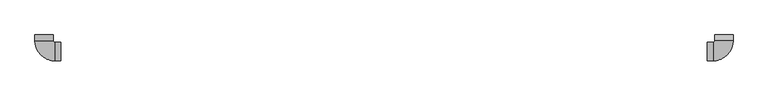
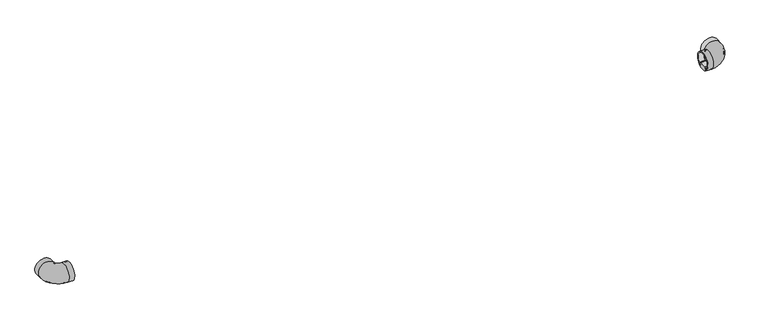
"""IFC4 building model written with IfcOpenShell, lengths in millimetres: light fixture geometry, ARTEMIDE-AoL-StandAlone-SquareRectangular_Suspended : StandALone_Suspended_SquareRectangular-1911x1911mm 14020lm 3000K."""

from ifc_helpers import new_model, si_unit, point, frame, origin, place, context, project, spatial, polyline, circle_curve, ellipse_curve, trimmed, source, transform, mapped, element, save
from ifc_brep_helpers import plane_surface, cylinder_surface, revolved_surface, advanced_brep


def light_fixture_b85b4a0d(model_context):
    return source(origin(), model_context, "Body", "AdvancedBrep", [
        advanced_brep(
        [(1840.5032014, -126.75, 502.9333396), (1840.5032014, -126.75, 507.259212), (1840.5032014, -130.304087, 507.259212), (1840.5032014, -130.304087, 508.785971), (1840.5032014, -124.5062575, 508.785971), (1840.5032014, -124.5062575, 514.4273482), (1840.5032014, -105.4937425, 514.4273482), (1840.5032014, -105.4937425, 508.785971), (1840.5032014, -99.695913, 508.785971), (1840.5032014, -99.695913, 507.259212), (1840.5032014, -103.25, 507.259212), (1840.5032014, -103.25, 502.9333396), (1897.7532014, -69.5, 502.9333396), (1874.2532014, -69.5, 502.9333396), (1874.2532014, -69.5, 507.259212), (1870.6991144, -69.5, 507.259212), (1870.6991144, -69.5, 508.785971), (1876.4969439, -69.5, 508.785971), (1876.4969439, -69.5, 514.4273482), (1895.5094589, -69.5, 514.4273482), (1895.5094589, -69.5, 508.785971), (1901.3072884, -69.5, 508.785971), (1901.3072884, -69.5, 507.259212), (1897.7532014, -69.5, 507.259212), (1856.0032014, -103.25, 502.9333396), (1856.0032014, -126.75, 502.9333396), (1856.0032014, -103.25, 507.259212), (1856.0032014, -99.695913, 507.259212), (1870.6991144, -85.0, 507.259212), (1874.2532014, -85.0, 507.259212), (1856.0032014, -99.695913, 508.785971), (1856.0032014, -105.4937425, 508.785971), (1876.4969439, -85.0, 508.785971), (1870.6991144, -85.0, 508.785971), (1856.0032014, -105.4937425, 514.4273482), (1856.0032014, -124.5062575, 514.4273482), (1895.5094589, -85.0, 514.4273482), (1876.4969439, -85.0, 514.4273482), (1856.0032014, -124.5062575, 508.785971), (1856.0032014, -130.304087, 508.785971), (1901.3072884, -85.0, 508.785971), (1895.5094589, -85.0, 508.785971), (1856.0032014, -130.304087, 507.259212), (1856.0032014, -126.75, 507.259212), (1897.7532014, -85.0, 507.259212), (1901.3072884, -85.0, 507.259212), (1897.7532014, -85.0, 502.9333396), (1874.2532014, -85.0, 502.9333396)],
        [
            (0, 1),
            (1, 2),
            (2, 3),
            (3, 4),
            (4, 5),
            (5, 6),
            (6, 7),
            (7, 8),
            (8, 9),
            (9, 10),
            (10, 11),
            (11, 0, circle_curve(frame((1840.5032014, -115.0, 525.0), z_axis=(-1.0, 0.0, 0.0), x_axis=(0.0, 1.0, 0.0)), 25.0)),
            (12, 13, circle_curve(frame((1886.0032014, -69.5, 525.0), z_axis=(0.0, 1.0, 0.0), x_axis=(-1.0, 0.0, 0.0)), 25.0)),
            (13, 14),
            (14, 15),
            (15, 16),
            (16, 17),
            (17, 18),
            (18, 19),
            (19, 20),
            (20, 21),
            (21, 22),
            (22, 23),
            (23, 12),
            (11, 24),
            (24, 25, circle_curve(frame((1856.0032014, -115.0, 525.0), z_axis=(-1.0, 0.0, 0.0), x_axis=(0.0, 1.0, 0.0)), 25.0)),
            (25, 0),
            (10, 26),
            (26, 24),
            (9, 27),
            (27, 28, circle_curve(frame((1856.0032014, -85.0, 507.259212), z_axis=(0.0, 0.0, 1.0), x_axis=(0.0, -1.0, 0.0)), 14.695913)),
            (28, 15),
            (14, 29),
            (29, 26, circle_curve(frame((1856.0032014, -85.0, 507.259212), z_axis=(0.0, 0.0, -1.0), x_axis=(0.0, -1.0, 0.0)), 18.25)),
            (8, 30),
            (30, 27),
            (7, 31),
            (31, 32, circle_curve(frame((1856.0032014, -85.0, 508.785971), z_axis=(0.0, 0.0, 1.0), x_axis=(0.0, -1.0, 0.0)), 20.4937425)),
            (32, 17),
            (16, 33),
            (33, 30, circle_curve(frame((1856.0032014, -85.0, 508.785971), z_axis=(0.0, 0.0, -1.0), x_axis=(0.0, -1.0, 0.0)), 14.695913)),
            (6, 34),
            (34, 31),
            (5, 35),
            (35, 36, circle_curve(frame((1856.0032014, -85.0, 514.4273482), z_axis=(0.0, 0.0, 1.0), x_axis=(0.0, -1.0, 0.0)), 39.5062575)),
            (36, 19),
            (18, 37),
            (37, 34, circle_curve(frame((1856.0032014, -85.0, 514.4273482), z_axis=(0.0, 0.0, -1.0), x_axis=(0.0, -1.0, 0.0)), 20.4937425)),
            (4, 38),
            (38, 35),
            (3, 39),
            (39, 40, circle_curve(frame((1856.0032014, -85.0, 508.785971), z_axis=(0.0, 0.0, 1.0), x_axis=(0.0, -1.0, 0.0)), 45.304087)),
            (40, 21),
            (20, 41),
            (41, 38, circle_curve(frame((1856.0032014, -85.0, 508.785971), z_axis=(0.0, 0.0, -1.0), x_axis=(0.0, -1.0, 0.0)), 39.5062575)),
            (2, 42),
            (42, 39),
            (1, 43),
            (43, 44, circle_curve(frame((1856.0032014, -85.0, 507.259212), z_axis=(0.0, 0.0, 1.0), x_axis=(0.0, -1.0, 0.0)), 41.75)),
            (44, 23),
            (22, 45),
            (45, 42, circle_curve(frame((1856.0032014, -85.0, 507.259212), z_axis=(0.0, 0.0, -1.0), x_axis=(0.0, -1.0, 0.0)), 45.304087)),
            (25, 43),
            (46, 25, circle_curve(frame((1856.0032014, -85.0, 502.9333396), z_axis=(0.0, 0.0, -1.0), x_axis=(0.0, -1.0, 0.0)), 41.75)),
            (24, 47, circle_curve(frame((1856.0032014, -85.0, 502.9333396), z_axis=(0.0, 0.0, 1.0), x_axis=(0.0, -1.0, 0.0)), 18.25)),
            (47, 46, circle_curve(frame((1886.0032014, -85.0, 525.0), z_axis=(0.0, -1.0, 0.0), x_axis=(-1.0, 0.0, 0.0)), 25.0)),
            (29, 47),
            (33, 28),
            (37, 32),
            (41, 36),
            (45, 40),
            (46, 44),
            (47, 13),
            (12, 46),
        ],
        [
            plane_surface(frame((1840.5032014, -115.0, 500.0), z_axis=(-1.0, 0.0, 0.0), x_axis=(0.0, 0.0, 1.0))),
            plane_surface(frame((1886.0032014, -69.5, 500.0), z_axis=(0.0, 1.0, 0.0), x_axis=(0.0, 0.0, 1.0))),
            cylinder_surface(frame((1840.5032014, -115.0, 525.0), z_axis=(-1.0, 0.0, 0.0), x_axis=(0.0, 1.0, 0.0)), 25.0),
            plane_surface(frame((1840.5032014, -103.25, 507.259212), z_axis=(0.0, 1.0, 0.0), x_axis=(1.0, 0.0, 0.0))),
            plane_surface(frame((1840.5032014, -99.695913, 507.259212), z_axis=(0.0, 0.0, -1.0), x_axis=(1.0, 0.0, 0.0))),
            plane_surface(frame((1840.5032014, -99.695913, 508.785971), z_axis=(0.0, 1.0, 0.0), x_axis=(1.0, 0.0, 0.0))),
            plane_surface(frame((1840.5032014, -105.4937425, 508.785971), z_axis=(0.0, 0.0, 1.0), x_axis=(1.0, 0.0, 0.0))),
            plane_surface(frame((1840.5032014, -105.4937425, 514.4273482), z_axis=(0.0, 1.0, 0.0), x_axis=(1.0, 0.0, 0.0))),
            plane_surface(frame((1840.5032014, -124.5062575, 514.4273482), z_axis=(0.0, 0.0, 1.0), x_axis=(1.0, 0.0, 0.0))),
            plane_surface(frame((1840.5032014, -124.5062575, 508.785971), z_axis=(0.0, -1.0, 0.0), x_axis=(1.0, 0.0, 0.0))),
            plane_surface(frame((1840.5032014, -130.304087, 508.785971), z_axis=(0.0, 0.0, 1.0), x_axis=(1.0, 0.0, 0.0))),
            plane_surface(frame((1840.5032014, -130.304087, 507.259212), z_axis=(0.0, -1.0, 0.0), x_axis=(1.0, 0.0, 0.0))),
            plane_surface(frame((1840.5032014, -126.75, 507.259212), z_axis=(0.0, 0.0, -1.0), x_axis=(1.0, 0.0, 0.0))),
            plane_surface(frame((1840.5032014, -126.75, 502.9333396), z_axis=(0.0, -1.0, 0.0), x_axis=(1.0, 0.0, 0.0))),
            revolved_surface(trimmed(ellipse_curve(frame((1856.0032014, -115.0, 525.0), z_axis=(-1.0, 0.0, 0.0), x_axis=(0.0, 1.0, 0.0)), 25.0, 25.0), [point((1856.0032014, -103.25, 502.9333396))], [point((1856.0032014, -126.75, 502.9333396))], True, "CARTESIAN"), (1856.0032014, -85.0, 500.0), (0.0, 0.0, 1.0)),
            revolved_surface(polyline([(1856.0032014, -103.25, 507.259212), (1856.0032014, -103.25, 502.9333396)]), (1856.0032014, -85.0, 500.0), (0.0, 0.0, 1.0)),
            revolved_surface(polyline([(1856.0032014, -99.695913, 508.785971), (1856.0032014, -99.695913, 507.259212)]), (1856.0032014, -85.0, 500.0), (0.0, 0.0, 1.0)),
            revolved_surface(polyline([(1856.0032014, -105.4937425, 514.4273482), (1856.0032014, -105.4937425, 508.785971)]), (1856.0032014, -85.0, 500.0), (0.0, 0.0, 1.0)),
            cylinder_surface(frame((1856.0032014, -85.0, 500.0), z_axis=(0.0, 0.0, 1.0), x_axis=(0.0, -1.0, 0.0)), 39.5062575),
            cylinder_surface(frame((1856.0032014, -85.0, 500.0), z_axis=(0.0, 0.0, 1.0), x_axis=(0.0, -1.0, 0.0)), 45.304087),
            cylinder_surface(frame((1856.0032014, -85.0, 500.0), z_axis=(0.0, 0.0, 1.0), x_axis=(0.0, -1.0, 0.0)), 41.75),
            cylinder_surface(frame((1886.0032014, -85.0, 525.0), z_axis=(0.0, -1.0, 0.0), x_axis=(-1.0, 0.0, 0.0)), 25.0),
            plane_surface(frame((1874.2532014, -85.0, 507.259212), z_axis=(-1.0, 0.0, 0.0), x_axis=(0.0, 1.0, 0.0))),
            plane_surface(frame((1870.6991144, -85.0, 508.785971), z_axis=(-1.0, 0.0, 0.0), x_axis=(0.0, 1.0, 0.0))),
            plane_surface(frame((1876.4969439, -85.0, 514.4273482), z_axis=(-1.0, 0.0, 0.0), x_axis=(0.0, 1.0, 0.0))),
            plane_surface(frame((1895.5094589, -85.0, 508.785971), z_axis=(1.0, 0.0, 0.0), x_axis=(0.0, 1.0, 0.0))),
            plane_surface(frame((1901.3072884, -85.0, 507.259212), z_axis=(1.0, 0.0, 0.0), x_axis=(0.0, 1.0, 0.0))),
            plane_surface(frame((1897.7532014, -85.0, 502.9333396), z_axis=(1.0, 0.0, 0.0), x_axis=(0.0, 1.0, 0.0))),
        ],
        [
            (0, [[1, 2, 3, 4, 5, 6, 7, 8, 9, 10, 11, 12]]),
            (1, [[13, 14, 15, 16, 17, 18, 19, 20, 21, 22, 23, 24]]),
            (2, [[-12, 25, 26, 27]]),
            (3, [[-11, 28, 29, -25]]),
            (4, [[-10, 30, 31, 32, -15, 33, 34, -28]]),
            (5, [[-9, 35, 36, -30]]),
            (6, [[-8, 37, 38, 39, -17, 40, 41, -35]]),
            (7, [[-7, 42, 43, -37]]),
            (8, [[-6, 44, 45, 46, -19, 47, 48, -42]]),
            (9, [[-5, 49, 50, -44]]),
            (10, [[-4, 51, 52, 53, -21, 54, 55, -49]]),
            (11, [[-3, 56, 57, -51]]),
            (12, [[-2, 58, 59, 60, -23, 61, 62, -56]]),
            (13, [[-1, -27, 63, -58]]),
            (14, [[64, -26, 65, 66]]),
            (15, [[-65, -29, -34, 67]]),
            (16, [[-31, -36, -41, 68]]),
            (17, [[-38, -43, -48, 69]]),
            (18, [[-45, -50, -55, 70]]),
            (19, [[-52, -57, -62, 71]]),
            (20, [[-59, -63, -64, 72]]),
            (21, [[-66, 73, -13, 74]]),
            (22, [[-67, -33, -14, -73]]),
            (23, [[-68, -40, -16, -32]]),
            (24, [[-69, -47, -18, -39]]),
            (25, [[-70, -54, -20, -46]]),
            (26, [[-71, -61, -22, -53]]),
            (27, [[-72, -74, -24, -60]]),
        ],
    ),
        advanced_brep(
        [(1840.5032014, -103.25, 502.9333396), (1840.5032014, -103.25, 507.259212), (1840.5032014, -101.332246, 507.259212), (1840.5032014, -101.332246, 505.8288843), (1840.5032014, -99.382246, 507.2440748), (1840.5032014, -99.382246, 509.244074), (1840.5032014, -102.332246, 509.244074), (1840.5032014, -102.332246, 510.744074), (1840.5032014, -97.7220206, 510.744074), (1840.5032014, -132.2779794, 510.744074), (1840.5032014, -127.667754, 510.744074), (1840.5032014, -127.667754, 509.244074), (1840.5032014, -130.617754, 509.244074), (1840.5032014, -130.617754, 507.2440748), (1840.5032014, -128.667754, 505.8288843), (1840.5032014, -128.667754, 507.259212), (1840.5032014, -126.75, 507.259212), (1840.5032014, -126.75, 502.9333396), (1874.2532014, -69.5, 502.9333396), (1897.7532014, -69.5, 502.9333396), (1897.7532014, -69.5, 507.259212), (1899.6709554, -69.5, 507.259212), (1899.6709554, -69.5, 505.8288843), (1901.6209554, -69.5, 507.2440748), (1901.6209554, -69.5, 509.244074), (1898.6709554, -69.5, 509.244074), (1898.6709554, -69.5, 510.744074), (1903.2811808, -69.5, 510.744074), (1868.725222, -69.5, 510.744074), (1873.3354474, -69.5, 510.744074), (1873.3354474, -69.5, 509.244074), (1870.3854474, -69.5, 509.244074), (1870.3854474, -69.5, 507.2440748), (1872.3354474, -69.5, 505.8288843), (1872.3354474, -69.5, 507.259212), (1874.2532014, -69.5, 507.259212), (1856.0032014, -126.75, 502.9333396), (1856.0032014, -103.25, 502.9333396), (1856.0032014, -126.75, 507.259212), (1856.0032014, -128.667754, 507.259212), (1899.6709554, -85.0, 507.259212), (1897.7532014, -85.0, 507.259212), (1856.0032014, -128.667754, 505.8288843), (1856.0032014, -130.617754, 507.2440748), (1856.0032014, -130.617754, 509.244074), (1856.0032014, -127.667754, 509.244074), (1898.6709554, -85.0, 509.244074), (1901.6209554, -85.0, 509.244074), (1856.0032014, -127.667754, 510.744074), (1856.0032014, -132.2779794, 510.744074), (1903.2811808, -85.0, 510.744074), (1898.6709554, -85.0, 510.744074), (1856.0032014, -97.7220206, 510.744074), (1856.0032014, -102.332246, 510.744074), (1873.3354474, -85.0, 510.744074), (1868.725222, -85.0, 510.744074), (1856.0032014, -102.332246, 509.244074), (1856.0032014, -99.382246, 509.244074), (1870.3854474, -85.0, 509.244074), (1873.3354474, -85.0, 509.244074), (1856.0032014, -99.382246, 507.2440748), (1856.0032014, -101.332246, 505.8288843), (1856.0032014, -101.332246, 507.259212), (1856.0032014, -103.25, 507.259212), (1874.2532014, -85.0, 507.259212), (1872.3354474, -85.0, 507.259212), (1874.2532014, -85.0, 502.9333396), (1897.7532014, -85.0, 502.9333396), (1899.6709554, -85.0, 505.8288843), (1901.6209554, -85.0, 507.2440748), (1870.3854474, -85.0, 507.2440748), (1872.3354474, -85.0, 505.8288843)],
        [
            (0, 1),
            (1, 2),
            (2, 3),
            (3, 4),
            (4, 5),
            (5, 6),
            (6, 7),
            (7, 8),
            (8, 9, circle_curve(frame((1840.5032014, -115.0, 525.0), z_axis=(1.0, 0.0, 0.0), x_axis=(0.0, 1.0, 0.0)), 22.4)),
            (9, 10),
            (10, 11),
            (11, 12),
            (12, 13),
            (13, 14),
            (14, 15),
            (15, 16),
            (16, 17),
            (17, 0, circle_curve(frame((1840.5032014, -115.0, 525.0), z_axis=(-1.0, 0.0, 0.0), x_axis=(0.0, 1.0, 0.0)), 25.0)),
            (18, 19, circle_curve(frame((1886.0032014, -69.5, 525.0), z_axis=(0.0, 1.0, 0.0), x_axis=(-1.0, 0.0, 0.0)), 25.0)),
            (19, 20),
            (20, 21),
            (21, 22),
            (22, 23),
            (23, 24),
            (24, 25),
            (25, 26),
            (26, 27),
            (27, 28, circle_curve(frame((1886.0032014, -69.5, 525.0), z_axis=(0.0, -1.0, 0.0), x_axis=(-1.0, 0.0, 0.0)), 22.4)),
            (28, 29),
            (29, 30),
            (30, 31),
            (31, 32),
            (32, 33),
            (33, 34),
            (34, 35),
            (35, 18),
            (17, 36),
            (36, 37, circle_curve(frame((1856.0032014, -115.0, 525.0), z_axis=(-1.0, 0.0, 0.0), x_axis=(0.0, 1.0, 0.0)), 25.0)),
            (37, 0),
            (16, 38),
            (38, 36),
            (15, 39),
            (39, 40, circle_curve(frame((1856.0032014, -85.0, 507.259212), z_axis=(0.0, 0.0, 1.0), x_axis=(0.0, -1.0, 0.0)), 43.667754)),
            (40, 21),
            (20, 41),
            (41, 38, circle_curve(frame((1856.0032014, -85.0, 507.259212), z_axis=(0.0, 0.0, -1.0), x_axis=(0.0, -1.0, 0.0)), 41.75)),
            (14, 42),
            (42, 39),
            (13, 43),
            (43, 42),
            (12, 44),
            (44, 43),
            (11, 45),
            (45, 46, circle_curve(frame((1856.0032014, -85.0, 509.244074), z_axis=(0.0, 0.0, 1.0), x_axis=(0.0, -1.0, 0.0)), 42.667754)),
            (46, 25),
            (24, 47),
            (47, 44, circle_curve(frame((1856.0032014, -85.0, 509.244074), z_axis=(0.0, 0.0, -1.0), x_axis=(0.0, -1.0, 0.0)), 45.617754)),
            (10, 48),
            (48, 45),
            (9, 49),
            (49, 50, circle_curve(frame((1856.0032014, -85.0, 510.744074), z_axis=(0.0, 0.0, 1.0), x_axis=(0.0, -1.0, 0.0)), 47.2779794)),
            (50, 27),
            (26, 51),
            (51, 48, circle_curve(frame((1856.0032014, -85.0, 510.744074), z_axis=(0.0, 0.0, -1.0), x_axis=(0.0, -1.0, 0.0)), 42.667754)),
            (8, 52),
            (52, 49, circle_curve(frame((1856.0032014, -115.0, 525.0), z_axis=(1.0, 0.0, 0.0), x_axis=(0.0, 1.0, 0.0)), 22.4)),
            (7, 53),
            (53, 54, circle_curve(frame((1856.0032014, -85.0, 510.744074), z_axis=(0.0, 0.0, 1.0), x_axis=(0.0, -1.0, 0.0)), 17.332246)),
            (54, 29),
            (28, 55),
            (55, 52, circle_curve(frame((1856.0032014, -85.0, 510.744074), z_axis=(0.0, 0.0, -1.0), x_axis=(0.0, -1.0, 0.0)), 12.7220206)),
            (6, 56),
            (56, 53),
            (5, 57),
            (57, 58, circle_curve(frame((1856.0032014, -85.0, 509.244074), z_axis=(0.0, 0.0, 1.0), x_axis=(0.0, -1.0, 0.0)), 14.382246)),
            (58, 31),
            (30, 59),
            (59, 56, circle_curve(frame((1856.0032014, -85.0, 509.244074), z_axis=(0.0, 0.0, -1.0), x_axis=(0.0, -1.0, 0.0)), 17.332246)),
            (4, 60),
            (60, 57),
            (3, 61),
            (61, 60),
            (2, 62),
            (62, 61),
            (1, 63),
            (63, 64, circle_curve(frame((1856.0032014, -85.0, 507.259212), z_axis=(0.0, 0.0, 1.0), x_axis=(0.0, -1.0, 0.0)), 18.25)),
            (64, 35),
            (34, 65),
            (65, 62, circle_curve(frame((1856.0032014, -85.0, 507.259212), z_axis=(0.0, 0.0, -1.0), x_axis=(0.0, -1.0, 0.0)), 16.332246)),
            (37, 63),
            (66, 37, circle_curve(frame((1856.0032014, -85.0, 502.9333396), z_axis=(0.0, 0.0, -1.0), x_axis=(0.0, -1.0, 0.0)), 18.25)),
            (36, 67, circle_curve(frame((1856.0032014, -85.0, 502.9333396), z_axis=(0.0, 0.0, 1.0), x_axis=(0.0, -1.0, 0.0)), 41.75)),
            (67, 66, circle_curve(frame((1886.0032014, -85.0, 525.0), z_axis=(0.0, -1.0, 0.0), x_axis=(-1.0, 0.0, 0.0)), 25.0)),
            (41, 67),
            (42, 68, circle_curve(frame((1856.0032014, -85.0, 505.8288843), z_axis=(0.0, 0.0, 1.0), x_axis=(0.0, -1.0, 0.0)), 43.667754)),
            (68, 40),
            (43, 69, circle_curve(frame((1856.0032014, -85.0, 507.2440748), z_axis=(0.0, 0.0, 1.0), x_axis=(0.0, -1.0, 0.0)), 45.617754)),
            (69, 68),
            (47, 69),
            (51, 46),
            (55, 50, circle_curve(frame((1886.0032014, -85.0, 525.0), z_axis=(0.0, 1.0, 0.0), x_axis=(-1.0, 0.0, 0.0)), 22.4)),
            (59, 54),
            (60, 70, circle_curve(frame((1856.0032014, -85.0, 507.2440748), z_axis=(0.0, 0.0, 1.0), x_axis=(0.0, -1.0, 0.0)), 14.382246)),
            (70, 58),
            (61, 71, circle_curve(frame((1856.0032014, -85.0, 505.8288843), z_axis=(0.0, 0.0, 1.0), x_axis=(0.0, -1.0, 0.0)), 16.332246)),
            (71, 70),
            (65, 71),
            (66, 64),
            (67, 19),
            (18, 66),
            (68, 22),
            (69, 23),
            (70, 32),
            (71, 33),
        ],
        [
            plane_surface(frame((1840.5032014, -115.0, 500.0), z_axis=(-1.0, 0.0, 0.0), x_axis=(0.0, 0.0, 1.0))),
            plane_surface(frame((1886.0032014, -69.5, 500.0), z_axis=(0.0, 1.0, 0.0), x_axis=(0.0, 0.0, 1.0))),
            cylinder_surface(frame((1840.5032014, -115.0, 525.0), z_axis=(-1.0, 0.0, 0.0), x_axis=(0.0, 1.0, 0.0)), 25.0),
            plane_surface(frame((1840.5032014, -126.75, 507.259212), z_axis=(0.0, 1.0, 0.0), x_axis=(1.0, 0.0, 0.0))),
            plane_surface(frame((1840.5032014, -128.667754, 507.259212), z_axis=(0.0, 0.0, 1.0), x_axis=(1.0, 0.0, 0.0))),
            plane_surface(frame((1840.5032014, -128.667754, 505.8288843), z_axis=(0.0, -1.0, 0.0), x_axis=(1.0, 0.0, 0.0))),
            plane_surface(frame((1840.5032014, -130.617754, 507.2440748), z_axis=(0.0, 0.5873593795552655, 0.8093262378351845), x_axis=(1.0, 0.0, 0.0))),
            plane_surface(frame((1840.5032014, -130.617754, 509.244074), z_axis=(0.0, 1.0, 0.0), x_axis=(1.0, 0.0, 0.0))),
            plane_surface(frame((1840.5032014, -127.667754, 509.244074), z_axis=(0.0, 0.0, -1.0), x_axis=(1.0, 0.0, 0.0))),
            plane_surface(frame((1840.5032014, -127.667754, 510.744074), z_axis=(0.0, 1.0, 0.0), x_axis=(1.0, 0.0, 0.0))),
            plane_surface(frame((1840.5032014, -132.2779794, 510.744074), z_axis=(0.0, 0.0, 1.0), x_axis=(1.0, 0.0, 0.0))),
            revolved_surface(polyline([(1856.0032014, -92.6, 525.0), (1840.5032014, -92.6, 525.0)]), (1840.5032014, -115.0, 525.0), (1.0, 0.0, 0.0)),
            plane_surface(frame((1840.5032014, -102.332246, 510.744074), z_axis=(0.0, 0.0, 1.0), x_axis=(1.0, 0.0, 0.0))),
            plane_surface(frame((1840.5032014, -102.332246, 509.244074), z_axis=(0.0, -1.0, 0.0), x_axis=(1.0, 0.0, 0.0))),
            plane_surface(frame((1840.5032014, -99.382246, 509.244074), z_axis=(0.0, 0.0, -1.0), x_axis=(1.0, 0.0, 0.0))),
            plane_surface(frame((1840.5032014, -99.382246, 507.2440748), z_axis=(0.0, -1.0, 0.0), x_axis=(1.0, 0.0, 0.0))),
            plane_surface(frame((1840.5032014, -101.332246, 505.8288843), z_axis=(0.0, -0.5873593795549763, 0.8093262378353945), x_axis=(1.0, 0.0, 0.0))),
            plane_surface(frame((1840.5032014, -101.332246, 507.259212), z_axis=(0.0, 1.0, 0.0), x_axis=(1.0, 0.0, 0.0))),
            plane_surface(frame((1840.5032014, -103.25, 507.259212), z_axis=(0.0, 0.0, 1.0), x_axis=(1.0, 0.0, 0.0))),
            plane_surface(frame((1840.5032014, -103.25, 502.9333396), z_axis=(0.0, -1.0, 0.0), x_axis=(1.0, 0.0, 0.0))),
            revolved_surface(trimmed(ellipse_curve(frame((1856.0032014, -115.0, 525.0), z_axis=(-1.0, 0.0, 0.0), x_axis=(0.0, 1.0, 0.0)), 25.0, 25.0), [point((1856.0032014, -126.75, 502.9333396))], [point((1856.0032014, -103.25, 502.9333396))], True, "CARTESIAN"), (1856.0032014, -85.0, 500.0), (0.0, 0.0, 1.0)),
            revolved_surface(polyline([(1856.0032014, -126.75, 507.259212), (1856.0032014, -126.75, 502.9333396)]), (1856.0032014, -85.0, 500.0), (0.0, 0.0, 1.0)),
            cylinder_surface(frame((1856.0032014, -85.0, 500.0), z_axis=(0.0, 0.0, 1.0), x_axis=(0.0, -1.0, 0.0)), 43.667754),
            revolved_surface(polyline([(1856.0032014, -130.617754, 507.2440748), (1856.0032014, -128.667754, 505.8288843)]), (1856.0032014, -85.0, 500.0), (0.0, 0.0, 1.0)),
            revolved_surface(polyline([(1856.0032014, -130.617754, 509.244074), (1856.0032014, -130.617754, 507.2440748)]), (1856.0032014, -85.0, 500.0), (0.0, 0.0, 1.0)),
            revolved_surface(polyline([(1856.0032014, -127.667754, 510.744074), (1856.0032014, -127.667754, 509.244074)]), (1856.0032014, -85.0, 500.0), (0.0, 0.0, 1.0)),
            revolved_surface(trimmed(ellipse_curve(frame((1856.0032014, -115.0, 525.0), z_axis=(1.0, 0.0, 0.0), x_axis=(0.0, 1.0, 0.0)), 22.4, 22.4), [point((1856.0032014, -97.7220206, 510.744074))], [point((1856.0032014, -132.2779794, 510.744074))], True, "CARTESIAN"), (1856.0032014, -85.0, 500.0), (0.0, 0.0, 1.0)),
            cylinder_surface(frame((1856.0032014, -85.0, 500.0), z_axis=(0.0, 0.0, 1.0), x_axis=(0.0, -1.0, 0.0)), 17.332246),
            cylinder_surface(frame((1856.0032014, -85.0, 500.0), z_axis=(0.0, 0.0, 1.0), x_axis=(0.0, -1.0, 0.0)), 14.382246),
            revolved_surface(polyline([(1856.0032014, -101.332246, 505.8288843), (1856.0032014, -99.382246, 507.2440748)]), (1856.0032014, -85.0, 500.0), (0.0, 0.0, 1.0)),
            revolved_surface(polyline([(1856.0032014, -101.332246, 507.259212), (1856.0032014, -101.332246, 505.8288843)]), (1856.0032014, -85.0, 500.0), (0.0, 0.0, 1.0)),
            cylinder_surface(frame((1856.0032014, -85.0, 500.0), z_axis=(0.0, 0.0, 1.0), x_axis=(0.0, -1.0, 0.0)), 18.25),
            cylinder_surface(frame((1886.0032014, -85.0, 525.0), z_axis=(0.0, -1.0, 0.0), x_axis=(-1.0, 0.0, 0.0)), 25.0),
            plane_surface(frame((1897.7532014, -85.0, 507.259212), z_axis=(-1.0, 0.0, 0.0), x_axis=(0.0, 1.0, 0.0))),
            plane_surface(frame((1899.6709554, -85.0, 505.8288843), z_axis=(1.0, 0.0, 0.0), x_axis=(0.0, 1.0, 0.0))),
            plane_surface(frame((1901.6209554, -85.0, 507.2440748), z_axis=(-0.587359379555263, 0.0, 0.8093262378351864), x_axis=(0.0, 1.0, 0.0))),
            plane_surface(frame((1901.6209554, -85.0, 509.244074), z_axis=(-1.0, 0.0, 0.0), x_axis=(0.0, 1.0, 0.0))),
            plane_surface(frame((1898.6709554, -85.0, 510.744074), z_axis=(-1.0, 0.0, 0.0), x_axis=(0.0, 1.0, 0.0))),
            revolved_surface(polyline([(1863.6032014, -69.5, 525.0), (1863.6032014, -85.0, 525.0)]), (1886.0032014, -85.0, 525.0), (0.0, 1.0, 0.0)),
            plane_surface(frame((1873.3354474, -85.0, 509.244074), z_axis=(1.0, 0.0, 0.0), x_axis=(0.0, 1.0, 0.0))),
            plane_surface(frame((1870.3854474, -85.0, 507.2440748), z_axis=(1.0, 0.0, 0.0), x_axis=(0.0, 1.0, 0.0))),
            plane_surface(frame((1872.3354474, -85.0, 505.8288843), z_axis=(0.5873593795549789, 0.0, 0.8093262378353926), x_axis=(0.0, 1.0, 0.0))),
            plane_surface(frame((1872.3354474, -85.0, 507.259212), z_axis=(-1.0, 0.0, 0.0), x_axis=(0.0, 1.0, 0.0))),
            plane_surface(frame((1874.2532014, -85.0, 502.9333396), z_axis=(1.0, 0.0, 0.0), x_axis=(0.0, 1.0, 0.0))),
        ],
        [
            (0, [[1, 2, 3, 4, 5, 6, 7, 8, 9, 10, 11, 12, 13, 14, 15, 16, 17, 18]]),
            (1, [[19, 20, 21, 22, 23, 24, 25, 26, 27, 28, 29, 30, 31, 32, 33, 34, 35, 36]]),
            (2, [[-18, 37, 38, 39]]),
            (3, [[-17, 40, 41, -37]]),
            (4, [[-16, 42, 43, 44, -21, 45, 46, -40]]),
            (5, [[-15, 47, 48, -42]]),
            (6, [[-14, 49, 50, -47]]),
            (7, [[-13, 51, 52, -49]]),
            (8, [[-12, 53, 54, 55, -25, 56, 57, -51]]),
            (9, [[-11, 58, 59, -53]]),
            (10, [[-10, 60, 61, 62, -27, 63, 64, -58]]),
            (11, [[-9, 65, 66, -60]]),
            (12, [[-8, 67, 68, 69, -29, 70, 71, -65]]),
            (13, [[-7, 72, 73, -67]]),
            (14, [[-6, 74, 75, 76, -31, 77, 78, -72]]),
            (15, [[-5, 79, 80, -74]]),
            (16, [[-4, 81, 82, -79]]),
            (17, [[-3, 83, 84, -81]]),
            (18, [[-2, 85, 86, 87, -35, 88, 89, -83]]),
            (19, [[-1, -39, 90, -85]]),
            (20, [[91, -38, 92, 93]]),
            (21, [[-92, -41, -46, 94]]),
            (22, [[-43, -48, 95, 96]]),
            (23, [[-95, -50, 97, 98]]),
            (24, [[-97, -52, -57, 99]]),
            (25, [[-54, -59, -64, 100]]),
            (26, [[-61, -66, -71, 101]]),
            (27, [[-68, -73, -78, 102]]),
            (28, [[-75, -80, 103, 104]]),
            (29, [[-103, -82, 105, 106]]),
            (30, [[-105, -84, -89, 107]]),
            (31, [[-86, -90, -91, 108]]),
            (32, [[-93, 109, -19, 110]]),
            (33, [[-94, -45, -20, -109]]),
            (34, [[-96, 111, -22, -44]]),
            (35, [[-98, 112, -23, -111]]),
            (36, [[-99, -56, -24, -112]]),
            (37, [[-100, -63, -26, -55]]),
            (38, [[-101, -70, -28, -62]]),
            (39, [[-102, -77, -30, -69]]),
            (40, [[-104, 113, -32, -76]]),
            (41, [[-106, 114, -33, -113]]),
            (42, [[-107, -88, -34, -114]]),
            (43, [[-108, -110, -36, -87]]),
        ],
    ),
        advanced_brep(
        [(13.25, -69.5, 502.9333396), (13.25, -69.5, 507.259212), (9.695913, -69.5, 507.259212), (9.695913, -69.5, 508.785971), (15.4937425, -69.5, 508.785971), (15.4937425, -69.5, 514.4273482), (34.5062575, -69.5, 514.4273482), (34.5062575, -69.5, 508.785971), (40.304087, -69.5, 508.785971), (40.304087, -69.5, 507.259212), (36.75, -69.5, 507.259212), (36.75, -69.5, 502.9333396), (70.5, -126.75, 502.9333396), (70.5, -103.25, 502.9333396), (70.5, -103.25, 507.259212), (70.5, -99.695913, 507.259212), (70.5, -99.695913, 508.785971), (70.5, -105.4937425, 508.785971), (70.5, -105.4937425, 514.4273482), (70.5, -124.5062575, 514.4273482), (70.5, -124.5062575, 508.785971), (70.5, -130.304087, 508.785971), (70.5, -130.304087, 507.259212), (70.5, -126.75, 507.259212), (36.75, -85.0, 502.9333396), (13.25, -85.0, 502.9333396), (36.75, -85.0, 507.259212), (40.304087, -85.0, 507.259212), (55.0, -99.695913, 507.259212), (55.0, -103.25, 507.259212), (40.304087, -85.0, 508.785971), (34.5062575, -85.0, 508.785971), (55.0, -105.4937425, 508.785971), (55.0, -99.695913, 508.785971), (34.5062575, -85.0, 514.4273482), (15.4937425, -85.0, 514.4273482), (55.0, -124.5062575, 514.4273482), (55.0, -105.4937425, 514.4273482), (15.4937425, -85.0, 508.785971), (9.695913, -85.0, 508.785971), (55.0, -130.304087, 508.785971), (55.0, -124.5062575, 508.785971), (9.695913, -85.0, 507.259212), (13.25, -85.0, 507.259212), (55.0, -126.75, 507.259212), (55.0, -130.304087, 507.259212), (55.0, -126.75, 502.9333396), (55.0, -103.25, 502.9333396)],
        [
            (0, 1),
            (1, 2),
            (2, 3),
            (3, 4),
            (4, 5),
            (5, 6),
            (6, 7),
            (7, 8),
            (8, 9),
            (9, 10),
            (10, 11),
            (11, 0, circle_curve(frame((25.0, -69.5, 525.0), z_axis=(0.0, 1.0, 0.0), x_axis=(1.0, 0.0, 0.0)), 25.0)),
            (12, 13, circle_curve(frame((70.5, -115.0, 525.0), z_axis=(1.0, 0.0, 0.0), x_axis=(0.0, 1.0, 0.0)), 25.0)),
            (13, 14),
            (14, 15),
            (15, 16),
            (16, 17),
            (17, 18),
            (18, 19),
            (19, 20),
            (20, 21),
            (21, 22),
            (22, 23),
            (23, 12),
            (11, 24),
            (24, 25, circle_curve(frame((25.0, -85.0, 525.0), z_axis=(0.0, 1.0, 0.0), x_axis=(1.0, 0.0, 0.0)), 25.0)),
            (25, 0),
            (10, 26),
            (26, 24),
            (9, 27),
            (27, 28, circle_curve(frame((55.0, -85.0, 507.259212), z_axis=(0.0, 0.0, 1.0), x_axis=(-1.0, 0.0, 0.0)), 14.695913)),
            (28, 15),
            (14, 29),
            (29, 26, circle_curve(frame((55.0, -85.0, 507.259212), z_axis=(0.0, 0.0, -1.0), x_axis=(-1.0, 0.0, 0.0)), 18.25)),
            (8, 30),
            (30, 27),
            (7, 31),
            (31, 32, circle_curve(frame((55.0, -85.0, 508.785971), z_axis=(0.0, 0.0, 1.0), x_axis=(-1.0, 0.0, 0.0)), 20.4937425)),
            (32, 17),
            (16, 33),
            (33, 30, circle_curve(frame((55.0, -85.0, 508.785971), z_axis=(0.0, 0.0, -1.0), x_axis=(-1.0, 0.0, 0.0)), 14.695913)),
            (6, 34),
            (34, 31),
            (5, 35),
            (35, 36, circle_curve(frame((55.0, -85.0, 514.4273482), z_axis=(0.0, 0.0, 1.0), x_axis=(-1.0, 0.0, 0.0)), 39.5062575)),
            (36, 19),
            (18, 37),
            (37, 34, circle_curve(frame((55.0, -85.0, 514.4273482), z_axis=(0.0, 0.0, -1.0), x_axis=(-1.0, 0.0, 0.0)), 20.4937425)),
            (4, 38),
            (38, 35),
            (3, 39),
            (39, 40, circle_curve(frame((55.0, -85.0, 508.785971), z_axis=(0.0, 0.0, 1.0), x_axis=(-1.0, 0.0, 0.0)), 45.304087)),
            (40, 21),
            (20, 41),
            (41, 38, circle_curve(frame((55.0, -85.0, 508.785971), z_axis=(0.0, 0.0, -1.0), x_axis=(-1.0, 0.0, 0.0)), 39.5062575)),
            (2, 42),
            (42, 39),
            (1, 43),
            (43, 44, circle_curve(frame((55.0, -85.0, 507.259212), z_axis=(0.0, 0.0, 1.0), x_axis=(-1.0, 0.0, 0.0)), 41.75)),
            (44, 23),
            (22, 45),
            (45, 42, circle_curve(frame((55.0, -85.0, 507.259212), z_axis=(0.0, 0.0, -1.0), x_axis=(-1.0, 0.0, 0.0)), 45.304087)),
            (25, 43),
            (46, 25, circle_curve(frame((55.0, -85.0, 502.9333396), z_axis=(0.0, 0.0, -1.0), x_axis=(-1.0, 0.0, 0.0)), 41.75)),
            (24, 47, circle_curve(frame((55.0, -85.0, 502.9333396), z_axis=(0.0, 0.0, 1.0), x_axis=(-1.0, 0.0, 0.0)), 18.25)),
            (47, 46, circle_curve(frame((55.0, -115.0, 525.0), z_axis=(-1.0, 0.0, 0.0), x_axis=(0.0, 1.0, 0.0)), 25.0)),
            (29, 47),
            (33, 28),
            (37, 32),
            (41, 36),
            (45, 40),
            (46, 44),
            (47, 13),
            (12, 46),
        ],
        [
            plane_surface(frame((25.0, -69.5, 500.0), z_axis=(0.0, 1.0, 0.0), x_axis=(0.0, 0.0, 1.0))),
            plane_surface(frame((70.5, -115.0, 500.0), z_axis=(1.0, 0.0, 0.0), x_axis=(0.0, 0.0, 1.0))),
            cylinder_surface(frame((25.0, -69.5, 525.0), z_axis=(0.0, 1.0, 0.0), x_axis=(1.0, 0.0, 0.0)), 25.0),
            plane_surface(frame((36.75, -69.5, 507.259212), z_axis=(1.0, 0.0, 0.0), x_axis=(0.0, -1.0, 0.0))),
            plane_surface(frame((40.304087, -69.5, 507.259212), z_axis=(0.0, 0.0, -1.0), x_axis=(0.0, -1.0, 0.0))),
            plane_surface(frame((40.304087, -69.5, 508.785971), z_axis=(1.0, 0.0, 0.0), x_axis=(0.0, -1.0, 0.0))),
            plane_surface(frame((34.5062575, -69.5, 508.785971), z_axis=(0.0, 0.0, 1.0), x_axis=(0.0, -1.0, 0.0))),
            plane_surface(frame((34.5062575, -69.5, 514.4273482), z_axis=(1.0, 0.0, 0.0), x_axis=(0.0, -1.0, 0.0))),
            plane_surface(frame((15.4937425, -69.5, 514.4273482), z_axis=(0.0, 0.0, 1.0), x_axis=(0.0, -1.0, 0.0))),
            plane_surface(frame((15.4937425, -69.5, 508.785971), z_axis=(-1.0, 0.0, 0.0), x_axis=(0.0, -1.0, 0.0))),
            plane_surface(frame((9.695913, -69.5, 508.785971), z_axis=(0.0, 0.0, 1.0), x_axis=(0.0, -1.0, 0.0))),
            plane_surface(frame((9.695913, -69.5, 507.259212), z_axis=(-1.0, 0.0, 0.0), x_axis=(0.0, -1.0, 0.0))),
            plane_surface(frame((13.25, -69.5, 507.259212), z_axis=(0.0, 0.0, -1.0), x_axis=(0.0, -1.0, 0.0))),
            plane_surface(frame((13.25, -69.5, 502.9333396), z_axis=(-1.0, 0.0, 0.0), x_axis=(0.0, -1.0, 0.0))),
            revolved_surface(trimmed(ellipse_curve(frame((25.0, -85.0, 525.0), z_axis=(0.0, 1.0, 0.0), x_axis=(1.0, 0.0, 0.0)), 25.0, 25.0), [point((36.75, -85.0, 502.9333396))], [point((13.25, -85.0, 502.9333396))], True, "CARTESIAN"), (55.0, -85.0, 500.0), (0.0, 0.0, 1.0)),
            revolved_surface(polyline([(36.75, -85.0, 507.259212), (36.75, -85.0, 502.9333396)]), (55.0, -85.0, 500.0), (0.0, 0.0, 1.0)),
            revolved_surface(polyline([(40.304087, -85.0, 508.785971), (40.304087, -85.0, 507.259212)]), (55.0, -85.0, 500.0), (0.0, 0.0, 1.0)),
            revolved_surface(polyline([(34.506257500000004, -85.0, 514.4273482), (34.506257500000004, -85.0, 508.785971)]), (55.0, -85.0, 500.0), (0.0, 0.0, 1.0)),
            cylinder_surface(frame((55.0, -85.0, 500.0), z_axis=(0.0, 0.0, 1.0), x_axis=(-1.0, 0.0, 0.0)), 39.5062575),
            cylinder_surface(frame((55.0, -85.0, 500.0), z_axis=(0.0, 0.0, 1.0), x_axis=(-1.0, 0.0, 0.0)), 45.304087),
            cylinder_surface(frame((55.0, -85.0, 500.0), z_axis=(0.0, 0.0, 1.0), x_axis=(-1.0, 0.0, 0.0)), 41.75),
            cylinder_surface(frame((55.0, -115.0, 525.0), z_axis=(-1.0, 0.0, 0.0), x_axis=(0.0, 1.0, 0.0)), 25.0),
            plane_surface(frame((55.0, -103.25, 507.259212), z_axis=(0.0, 1.0, 0.0), x_axis=(1.0, 0.0, 0.0))),
            plane_surface(frame((55.0, -99.695913, 508.785971), z_axis=(0.0, 1.0, 0.0), x_axis=(1.0, 0.0, 0.0))),
            plane_surface(frame((55.0, -105.4937425, 514.4273482), z_axis=(0.0, 1.0, 0.0), x_axis=(1.0, 0.0, 0.0))),
            plane_surface(frame((55.0, -124.5062575, 508.785971), z_axis=(0.0, -1.0, 0.0), x_axis=(1.0, 0.0, 0.0))),
            plane_surface(frame((55.0, -130.304087, 507.259212), z_axis=(0.0, -1.0, 0.0), x_axis=(1.0, 0.0, 0.0))),
            plane_surface(frame((55.0, -126.75, 502.9333396), z_axis=(0.0, -1.0, 0.0), x_axis=(1.0, 0.0, 0.0))),
        ],
        [
            (0, [[1, 2, 3, 4, 5, 6, 7, 8, 9, 10, 11, 12]]),
            (1, [[13, 14, 15, 16, 17, 18, 19, 20, 21, 22, 23, 24]]),
            (2, [[-12, 25, 26, 27]]),
            (3, [[-11, 28, 29, -25]]),
            (4, [[-10, 30, 31, 32, -15, 33, 34, -28]]),
            (5, [[-9, 35, 36, -30]]),
            (6, [[-8, 37, 38, 39, -17, 40, 41, -35]]),
            (7, [[-7, 42, 43, -37]]),
            (8, [[-6, 44, 45, 46, -19, 47, 48, -42]]),
            (9, [[-5, 49, 50, -44]]),
            (10, [[-4, 51, 52, 53, -21, 54, 55, -49]]),
            (11, [[-3, 56, 57, -51]]),
            (12, [[-2, 58, 59, 60, -23, 61, 62, -56]]),
            (13, [[-1, -27, 63, -58]]),
            (14, [[64, -26, 65, 66]]),
            (15, [[-65, -29, -34, 67]]),
            (16, [[-31, -36, -41, 68]]),
            (17, [[-38, -43, -48, 69]]),
            (18, [[-45, -50, -55, 70]]),
            (19, [[-52, -57, -62, 71]]),
            (20, [[-59, -63, -64, 72]]),
            (21, [[-66, 73, -13, 74]]),
            (22, [[-67, -33, -14, -73]]),
            (23, [[-68, -40, -16, -32]]),
            (24, [[-69, -47, -18, -39]]),
            (25, [[-70, -54, -20, -46]]),
            (26, [[-71, -61, -22, -53]]),
            (27, [[-72, -74, -24, -60]]),
        ],
    ),
        advanced_brep(
        [(36.75, -69.5, 502.9333396), (36.75, -69.5, 507.259212), (38.667754, -69.5, 507.259212), (38.667754, -69.5, 505.8288843), (40.617754, -69.5, 507.2440748), (40.617754, -69.5, 509.244074), (37.667754, -69.5, 509.244074), (37.667754, -69.5, 510.744074), (42.2779794, -69.5, 510.744074), (7.7220206, -69.5, 510.744074), (12.332246, -69.5, 510.744074), (12.332246, -69.5, 509.244074), (9.382246, -69.5, 509.244074), (9.382246, -69.5, 507.2440748), (11.332246, -69.5, 505.8288843), (11.332246, -69.5, 507.259212), (13.25, -69.5, 507.259212), (13.25, -69.5, 502.9333396), (70.5, -103.25, 502.9333396), (70.5, -126.75, 502.9333396), (70.5, -126.75, 507.259212), (70.5, -128.667754, 507.259212), (70.5, -128.667754, 505.8288843), (70.5, -130.617754, 507.2440748), (70.5, -130.617754, 509.244074), (70.5, -127.667754, 509.244074), (70.5, -127.667754, 510.744074), (70.5, -132.2779794, 510.744074), (70.5, -97.7220206, 510.744074), (70.5, -102.332246, 510.744074), (70.5, -102.332246, 509.244074), (70.5, -99.382246, 509.244074), (70.5, -99.382246, 507.2440748), (70.5, -101.332246, 505.8288843), (70.5, -101.332246, 507.259212), (70.5, -103.25, 507.259212), (13.25, -85.0, 502.9333396), (36.75, -85.0, 502.9333396), (13.25, -85.0, 507.259212), (11.332246, -85.0, 507.259212), (55.0, -128.667754, 507.259212), (55.0, -126.75, 507.259212), (11.332246, -85.0, 505.8288843), (9.382246, -85.0, 507.2440748), (9.382246, -85.0, 509.244074), (12.332246, -85.0, 509.244074), (55.0, -127.667754, 509.244074), (55.0, -130.617754, 509.244074), (12.332246, -85.0, 510.744074), (7.7220206, -85.0, 510.744074), (55.0, -132.2779794, 510.744074), (55.0, -127.667754, 510.744074), (42.2779794, -85.0, 510.744074), (37.667754, -85.0, 510.744074), (55.0, -102.332246, 510.744074), (55.0, -97.7220206, 510.744074), (37.667754, -85.0, 509.244074), (40.617754, -85.0, 509.244074), (55.0, -99.382246, 509.244074), (55.0, -102.332246, 509.244074), (40.617754, -85.0, 507.2440748), (38.667754, -85.0, 505.8288843), (38.667754, -85.0, 507.259212), (36.75, -85.0, 507.259212), (55.0, -103.25, 507.259212), (55.0, -101.332246, 507.259212), (55.0, -103.25, 502.9333396), (55.0, -126.75, 502.9333396), (55.0, -128.667754, 505.8288843), (55.0, -130.617754, 507.2440748), (55.0, -99.382246, 507.2440748), (55.0, -101.332246, 505.8288843)],
        [
            (0, 1),
            (1, 2),
            (2, 3),
            (3, 4),
            (4, 5),
            (5, 6),
            (6, 7),
            (7, 8),
            (8, 9, circle_curve(frame((25.0, -69.5, 525.0), z_axis=(0.0, -1.0, 0.0), x_axis=(1.0, 0.0, 0.0)), 22.4)),
            (9, 10),
            (10, 11),
            (11, 12),
            (12, 13),
            (13, 14),
            (14, 15),
            (15, 16),
            (16, 17),
            (17, 0, circle_curve(frame((25.0, -69.5, 525.0), z_axis=(0.0, 1.0, 0.0), x_axis=(1.0, 0.0, 0.0)), 25.0)),
            (18, 19, circle_curve(frame((70.5, -115.0, 525.0), z_axis=(1.0, 0.0, 0.0), x_axis=(0.0, 1.0, 0.0)), 25.0)),
            (19, 20),
            (20, 21),
            (21, 22),
            (22, 23),
            (23, 24),
            (24, 25),
            (25, 26),
            (26, 27),
            (27, 28, circle_curve(frame((70.5, -115.0, 525.0), z_axis=(-1.0, 0.0, 0.0), x_axis=(0.0, 1.0, 0.0)), 22.4)),
            (28, 29),
            (29, 30),
            (30, 31),
            (31, 32),
            (32, 33),
            (33, 34),
            (34, 35),
            (35, 18),
            (17, 36),
            (36, 37, circle_curve(frame((25.0, -85.0, 525.0), z_axis=(0.0, 1.0, 0.0), x_axis=(1.0, 0.0, 0.0)), 25.0)),
            (37, 0),
            (16, 38),
            (38, 36),
            (15, 39),
            (39, 40, circle_curve(frame((55.0, -85.0, 507.259212), z_axis=(0.0, 0.0, 1.0), x_axis=(-1.0, 0.0, 0.0)), 43.667754)),
            (40, 21),
            (20, 41),
            (41, 38, circle_curve(frame((55.0, -85.0, 507.259212), z_axis=(0.0, 0.0, -1.0), x_axis=(-1.0, 0.0, 0.0)), 41.75)),
            (14, 42),
            (42, 39),
            (13, 43),
            (43, 42),
            (12, 44),
            (44, 43),
            (11, 45),
            (45, 46, circle_curve(frame((55.0, -85.0, 509.244074), z_axis=(0.0, 0.0, 1.0), x_axis=(-1.0, 0.0, 0.0)), 42.667754)),
            (46, 25),
            (24, 47),
            (47, 44, circle_curve(frame((55.0, -85.0, 509.244074), z_axis=(0.0, 0.0, -1.0), x_axis=(-1.0, 0.0, 0.0)), 45.617754)),
            (10, 48),
            (48, 45),
            (9, 49),
            (49, 50, circle_curve(frame((55.0, -85.0, 510.744074), z_axis=(0.0, 0.0, 1.0), x_axis=(-1.0, 0.0, 0.0)), 47.2779794)),
            (50, 27),
            (26, 51),
            (51, 48, circle_curve(frame((55.0, -85.0, 510.744074), z_axis=(0.0, 0.0, -1.0), x_axis=(-1.0, 0.0, 0.0)), 42.667754)),
            (8, 52),
            (52, 49, circle_curve(frame((25.0, -85.0, 525.0), z_axis=(0.0, -1.0, 0.0), x_axis=(1.0, 0.0, 0.0)), 22.4)),
            (7, 53),
            (53, 54, circle_curve(frame((55.0, -85.0, 510.744074), z_axis=(0.0, 0.0, 1.0), x_axis=(-1.0, 0.0, 0.0)), 17.332246)),
            (54, 29),
            (28, 55),
            (55, 52, circle_curve(frame((55.0, -85.0, 510.744074), z_axis=(0.0, 0.0, -1.0), x_axis=(-1.0, 0.0, 0.0)), 12.7220206)),
            (6, 56),
            (56, 53),
            (5, 57),
            (57, 58, circle_curve(frame((55.0, -85.0, 509.244074), z_axis=(0.0, 0.0, 1.0), x_axis=(-1.0, 0.0, 0.0)), 14.382246)),
            (58, 31),
            (30, 59),
            (59, 56, circle_curve(frame((55.0, -85.0, 509.244074), z_axis=(0.0, 0.0, -1.0), x_axis=(-1.0, 0.0, 0.0)), 17.332246)),
            (4, 60),
            (60, 57),
            (3, 61),
            (61, 60),
            (2, 62),
            (62, 61),
            (1, 63),
            (63, 64, circle_curve(frame((55.0, -85.0, 507.259212), z_axis=(0.0, 0.0, 1.0), x_axis=(-1.0, 0.0, 0.0)), 18.25)),
            (64, 35),
            (34, 65),
            (65, 62, circle_curve(frame((55.0, -85.0, 507.259212), z_axis=(0.0, 0.0, -1.0), x_axis=(-1.0, 0.0, 0.0)), 16.332246)),
            (37, 63),
            (66, 37, circle_curve(frame((55.0, -85.0, 502.9333396), z_axis=(0.0, 0.0, -1.0), x_axis=(-1.0, 0.0, 0.0)), 18.25)),
            (36, 67, circle_curve(frame((55.0, -85.0, 502.9333396), z_axis=(0.0, 0.0, 1.0), x_axis=(-1.0, 0.0, 0.0)), 41.75)),
            (67, 66, circle_curve(frame((55.0, -115.0, 525.0), z_axis=(-1.0, 0.0, 0.0), x_axis=(0.0, 1.0, 0.0)), 25.0)),
            (41, 67),
            (42, 68, circle_curve(frame((55.0, -85.0, 505.8288843), z_axis=(0.0, 0.0, 1.0), x_axis=(-1.0, 0.0, 0.0)), 43.667754)),
            (68, 40),
            (43, 69, circle_curve(frame((55.0, -85.0, 507.2440748), z_axis=(0.0, 0.0, 1.0), x_axis=(-1.0, 0.0, 0.0)), 45.617754)),
            (69, 68),
            (47, 69),
            (51, 46),
            (55, 50, circle_curve(frame((55.0, -115.0, 525.0), z_axis=(1.0, 0.0, 0.0), x_axis=(0.0, 1.0, 0.0)), 22.4)),
            (59, 54),
            (60, 70, circle_curve(frame((55.0, -85.0, 507.2440748), z_axis=(0.0, 0.0, 1.0), x_axis=(-1.0, 0.0, 0.0)), 14.382246)),
            (70, 58),
            (61, 71, circle_curve(frame((55.0, -85.0, 505.8288843), z_axis=(0.0, 0.0, 1.0), x_axis=(-1.0, 0.0, 0.0)), 16.332246)),
            (71, 70),
            (65, 71),
            (66, 64),
            (67, 19),
            (18, 66),
            (68, 22),
            (69, 23),
            (70, 32),
            (71, 33),
        ],
        [
            plane_surface(frame((25.0, -69.5, 500.0), z_axis=(0.0, 1.0, 0.0), x_axis=(0.0, 0.0, 1.0))),
            plane_surface(frame((70.5, -115.0, 500.0), z_axis=(1.0, 0.0, 0.0), x_axis=(0.0, 0.0, 1.0))),
            cylinder_surface(frame((25.0, -69.5, 525.0), z_axis=(0.0, 1.0, 0.0), x_axis=(1.0, 0.0, 0.0)), 25.0),
            plane_surface(frame((13.25, -69.5, 507.259212), z_axis=(1.0, 0.0, 0.0), x_axis=(0.0, -1.0, 0.0))),
            plane_surface(frame((11.332246, -69.5, 507.259212), z_axis=(0.0, 0.0, 1.0), x_axis=(0.0, -1.0, 0.0))),
            plane_surface(frame((11.332246, -69.5, 505.8288843), z_axis=(-1.0, 0.0, 0.0), x_axis=(0.0, -1.0, 0.0))),
            plane_surface(frame((9.382246, -69.5, 507.2440748), z_axis=(0.5873593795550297, 0.0, 0.8093262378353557), x_axis=(0.0, -1.0, 0.0))),
            plane_surface(frame((9.382246, -69.5, 509.244074), z_axis=(1.0, 0.0, 0.0), x_axis=(0.0, -1.0, 0.0))),
            plane_surface(frame((12.332246, -69.5, 509.244074), z_axis=(0.0, 0.0, -1.0), x_axis=(0.0, -1.0, 0.0))),
            plane_surface(frame((12.332246, -69.5, 510.744074), z_axis=(1.0, 0.0, 0.0), x_axis=(0.0, -1.0, 0.0))),
            plane_surface(frame((7.7220206, -69.5, 510.744074), z_axis=(0.0, 0.0, 1.0), x_axis=(0.0, -1.0, 0.0))),
            revolved_surface(polyline([(47.4, -85.0, 525.0), (47.4, -69.5, 525.0)]), (25.0, -69.5, 525.0), (0.0, -1.0, 0.0)),
            plane_surface(frame((37.667754, -69.5, 510.744074), z_axis=(0.0, 0.0, 1.0), x_axis=(0.0, -1.0, 0.0))),
            plane_surface(frame((37.667754, -69.5, 509.244074), z_axis=(-1.0, 0.0, 0.0), x_axis=(0.0, -1.0, 0.0))),
            plane_surface(frame((40.617754, -69.5, 509.244074), z_axis=(0.0, 0.0, -1.0), x_axis=(0.0, -1.0, 0.0))),
            plane_surface(frame((40.617754, -69.5, 507.2440748), z_axis=(-1.0, 0.0, 0.0), x_axis=(0.0, -1.0, 0.0))),
            plane_surface(frame((38.667754, -69.5, 505.8288843), z_axis=(-0.5873593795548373, 0.0, 0.8093262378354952), x_axis=(0.0, -1.0, 0.0))),
            plane_surface(frame((38.667754, -69.5, 507.259212), z_axis=(1.0, 0.0, 0.0), x_axis=(0.0, -1.0, 0.0))),
            plane_surface(frame((36.75, -69.5, 507.259212), z_axis=(0.0, 0.0, 1.0), x_axis=(0.0, -1.0, 0.0))),
            plane_surface(frame((36.75, -69.5, 502.9333396), z_axis=(-1.0, 0.0, 0.0), x_axis=(0.0, -1.0, 0.0))),
            revolved_surface(trimmed(ellipse_curve(frame((25.0, -85.0, 525.0), z_axis=(0.0, 1.0, 0.0), x_axis=(1.0, 0.0, 0.0)), 25.0, 25.0), [point((13.25, -85.0, 502.9333396))], [point((36.75, -85.0, 502.9333396))], True, "CARTESIAN"), (55.0, -85.0, 500.0), (0.0, 0.0, 1.0)),
            revolved_surface(polyline([(13.25, -85.0, 507.259212), (13.25, -85.0, 502.9333396)]), (55.0, -85.0, 500.0), (0.0, 0.0, 1.0)),
            cylinder_surface(frame((55.0, -85.0, 500.0), z_axis=(0.0, 0.0, 1.0), x_axis=(-1.0, 0.0, 0.0)), 43.667754),
            revolved_surface(polyline([(9.382246, -85.0, 507.2440748), (11.332246, -85.0, 505.8288843)]), (55.0, -85.0, 500.0), (0.0, 0.0, 1.0)),
            revolved_surface(polyline([(9.382246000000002, -85.0, 509.244074), (9.382246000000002, -85.0, 507.2440748)]), (55.0, -85.0, 500.0), (0.0, 0.0, 1.0)),
            revolved_surface(polyline([(12.332245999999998, -85.0, 510.744074), (12.332245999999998, -85.0, 509.244074)]), (55.0, -85.0, 500.0), (0.0, 0.0, 1.0)),
            revolved_surface(trimmed(ellipse_curve(frame((25.0, -85.0, 525.0), z_axis=(0.0, -1.0, 0.0), x_axis=(1.0, 0.0, 0.0)), 22.4, 22.4), [point((42.2779794, -85.0, 510.744074))], [point((7.7220206, -85.0, 510.744074))], True, "CARTESIAN"), (55.0, -85.0, 500.0), (0.0, 0.0, 1.0)),
            cylinder_surface(frame((55.0, -85.0, 500.0), z_axis=(0.0, 0.0, 1.0), x_axis=(-1.0, 0.0, 0.0)), 17.332246),
            cylinder_surface(frame((55.0, -85.0, 500.0), z_axis=(0.0, 0.0, 1.0), x_axis=(-1.0, 0.0, 0.0)), 14.382246),
            revolved_surface(polyline([(38.667754, -85.0, 505.8288843), (40.617754, -85.0, 507.2440748)]), (55.0, -85.0, 500.0), (0.0, 0.0, 1.0)),
            revolved_surface(polyline([(38.667754, -85.0, 507.259212), (38.667754, -85.0, 505.8288843)]), (55.0, -85.0, 500.0), (0.0, 0.0, 1.0)),
            cylinder_surface(frame((55.0, -85.0, 500.0), z_axis=(0.0, 0.0, 1.0), x_axis=(-1.0, 0.0, 0.0)), 18.25),
            cylinder_surface(frame((55.0, -115.0, 525.0), z_axis=(-1.0, 0.0, 0.0), x_axis=(0.0, 1.0, 0.0)), 25.0),
            plane_surface(frame((55.0, -126.75, 507.259212), z_axis=(0.0, 1.0, 0.0), x_axis=(1.0, 0.0, 0.0))),
            plane_surface(frame((55.0, -128.667754, 505.8288843), z_axis=(0.0, -1.0, 0.0), x_axis=(1.0, 0.0, 0.0))),
            plane_surface(frame((55.0, -130.617754, 507.2440748), z_axis=(0.0, 0.5873593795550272, 0.8093262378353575), x_axis=(1.0, 0.0, 0.0))),
            plane_surface(frame((55.0, -130.617754, 509.244074), z_axis=(0.0, 1.0, 0.0), x_axis=(1.0, 0.0, 0.0))),
            plane_surface(frame((55.0, -127.667754, 510.744074), z_axis=(0.0, 1.0, 0.0), x_axis=(1.0, 0.0, 0.0))),
            revolved_surface(polyline([(70.5, -92.6, 525.0), (55.0, -92.6, 525.0)]), (55.0, -115.0, 525.0), (1.0, 0.0, 0.0)),
            plane_surface(frame((55.0, -102.332246, 509.244074), z_axis=(0.0, -1.0, 0.0), x_axis=(1.0, 0.0, 0.0))),
            plane_surface(frame((55.0, -99.382246, 507.2440748), z_axis=(0.0, -1.0, 0.0), x_axis=(1.0, 0.0, 0.0))),
            plane_surface(frame((55.0, -101.332246, 505.8288843), z_axis=(0.0, -0.5873593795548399, 0.8093262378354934), x_axis=(1.0, 0.0, 0.0))),
            plane_surface(frame((55.0, -101.332246, 507.259212), z_axis=(0.0, 1.0, 0.0), x_axis=(1.0, 0.0, 0.0))),
            plane_surface(frame((55.0, -103.25, 502.9333396), z_axis=(0.0, -1.0, 0.0), x_axis=(1.0, 0.0, 0.0))),
        ],
        [
            (0, [[1, 2, 3, 4, 5, 6, 7, 8, 9, 10, 11, 12, 13, 14, 15, 16, 17, 18]]),
            (1, [[19, 20, 21, 22, 23, 24, 25, 26, 27, 28, 29, 30, 31, 32, 33, 34, 35, 36]]),
            (2, [[-18, 37, 38, 39]]),
            (3, [[-17, 40, 41, -37]]),
            (4, [[-16, 42, 43, 44, -21, 45, 46, -40]]),
            (5, [[-15, 47, 48, -42]]),
            (6, [[-14, 49, 50, -47]]),
            (7, [[-13, 51, 52, -49]]),
            (8, [[-12, 53, 54, 55, -25, 56, 57, -51]]),
            (9, [[-11, 58, 59, -53]]),
            (10, [[-10, 60, 61, 62, -27, 63, 64, -58]]),
            (11, [[-9, 65, 66, -60]]),
            (12, [[-8, 67, 68, 69, -29, 70, 71, -65]]),
            (13, [[-7, 72, 73, -67]]),
            (14, [[-6, 74, 75, 76, -31, 77, 78, -72]]),
            (15, [[-5, 79, 80, -74]]),
            (16, [[-4, 81, 82, -79]]),
            (17, [[-3, 83, 84, -81]]),
            (18, [[-2, 85, 86, 87, -35, 88, 89, -83]]),
            (19, [[-1, -39, 90, -85]]),
            (20, [[91, -38, 92, 93]]),
            (21, [[-92, -41, -46, 94]]),
            (22, [[-43, -48, 95, 96]]),
            (23, [[-95, -50, 97, 98]]),
            (24, [[-97, -52, -57, 99]]),
            (25, [[-54, -59, -64, 100]]),
            (26, [[-61, -66, -71, 101]]),
            (27, [[-68, -73, -78, 102]]),
            (28, [[-75, -80, 103, 104]]),
            (29, [[-103, -82, 105, 106]]),
            (30, [[-105, -84, -89, 107]]),
            (31, [[-86, -90, -91, 108]]),
            (32, [[-93, 109, -19, 110]]),
            (33, [[-94, -45, -20, -109]]),
            (34, [[-96, 111, -22, -44]]),
            (35, [[-98, 112, -23, -111]]),
            (36, [[-99, -56, -24, -112]]),
            (37, [[-100, -63, -26, -55]]),
            (38, [[-101, -70, -28, -62]]),
            (39, [[-102, -77, -30, -69]]),
            (40, [[-104, 113, -32, -76]]),
            (41, [[-106, 114, -33, -113]]),
            (42, [[-107, -88, -34, -114]]),
            (43, [[-108, -110, -36, -87]]),
        ],
    ),
    ])


if __name__ == "__main__":
    model = new_model("IFC4")
    model_context = context("Model", 3, world=origin())
    ifc_project = project(units=[si_unit("LENGTHUNIT", "METRE", prefix="MILLI")], contexts=[model_context])
    site = spatial("IfcSite", under=ifc_project)
    building = spatial("IfcBuilding", under=site)
    placement = place(None, origin())
    light_fixture_shape = light_fixture_b85b4a0d(model_context)
    element("IfcLightFixture", 1, ObjectType="ARTEMIDE-AoL-StandAlone-SquareRectangular_Suspended : StandALone_Suspended_SquareRectangular-1911x1911mm 14020lm 3000K", at=placement, inside=building, context=model_context, shape_type="MappedRepresentation", body=[
        mapped(light_fixture_shape, transform((0.0, 0.0, 0.0), x_axis=(1.0, 0.0, 0.0), y_axis=(0.0, 1.0, 0.0), z_axis=(0.0, 0.0, 1.0))),
    ])
    save(model, "model.ifc")
